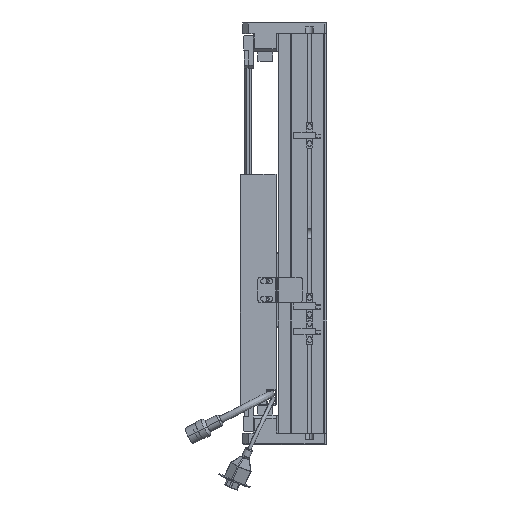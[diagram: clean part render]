
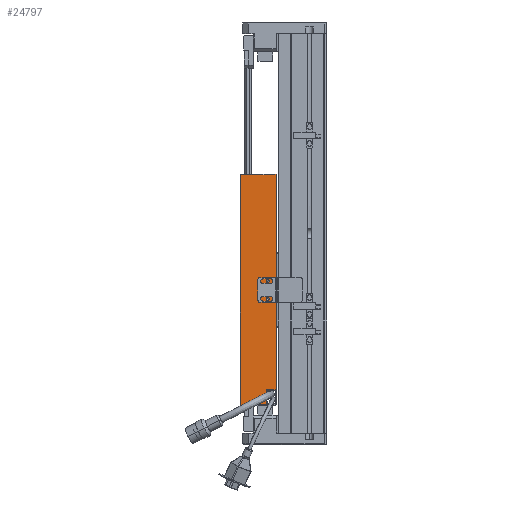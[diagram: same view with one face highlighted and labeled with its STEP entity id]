
A CAD part, left-side view. The second image highlights one B-rep face of the part: STEP entity #24797.
In plain terms, the highlighted planar face has unit normal (-1, 0, 0).
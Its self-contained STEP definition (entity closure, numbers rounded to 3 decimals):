
#4 = ORIENTED_EDGE ( 'NONE', *, *, #46359, .F. ) ;
#665 = DIRECTION ( 'NONE',  ( 0., 0., -1. ) ) ;
#1269 = CARTESIAN_POINT ( 'NONE',  ( -81., -13., 234.5 ) ) ;
#1821 = EDGE_CURVE ( 'NONE', #24424, #48332, #8244, .T. ) ;
#2036 = ORIENTED_EDGE ( 'NONE', *, *, #66134, .T. ) ;
#2097 = DIRECTION ( 'NONE',  ( 0., 0., -1. ) ) ;
#3103 = DIRECTION ( 'NONE',  ( -1., 0., 0. ) ) ;
#4010 = DIRECTION ( 'NONE',  ( 1., 0., 0. ) ) ;
#4570 = DIRECTION ( 'NONE',  ( 0., -1., 0. ) ) ;
#5510 = LINE ( 'NONE', #10534, #46006 ) ;
#6239 = VERTEX_POINT ( 'NONE', #37297 ) ;
#6248 = EDGE_CURVE ( 'NONE', #11185, #24840, #40239, .T. ) ;
#6364 = VERTEX_POINT ( 'NONE', #64661 ) ;
#6387 = EDGE_CURVE ( 'NONE', #13863, #48822, #17941, .T. ) ;
#6666 = CARTESIAN_POINT ( 'NONE',  ( -81., -6.5, 106.85 ) ) ;
#6883 = LINE ( 'NONE', #45633, #33373 ) ;
#7254 = DIRECTION ( 'NONE',  ( 0., 0., 1. ) ) ;
#7513 = FACE_BOUND ( 'NONE', #64216, .T. ) ;
#7769 = DIRECTION ( 'NONE',  ( 0., 0., 1. ) ) ;
#8244 = LINE ( 'NONE', #47803, #15656 ) ;
#8263 = CARTESIAN_POINT ( 'NONE',  ( -81., -15., 235. ) ) ;
#9329 = DIRECTION ( 'NONE',  ( 0., 0., -1. ) ) ;
#9887 = VECTOR ( 'NONE', #14415, 1000. ) ;
#10534 = CARTESIAN_POINT ( 'NONE',  ( -81., -15., 235. ) ) ;
#11185 = VERTEX_POINT ( 'NONE', #53282 ) ;
#11354 = CARTESIAN_POINT ( 'NONE',  ( -81., -6.5, 124.85 ) ) ;
#11596 = DIRECTION ( 'NONE',  ( 0., 0., 1. ) ) ;
#11696 = VECTOR ( 'NONE', #57791, 1000. ) ;
#12388 = AXIS2_PLACEMENT_3D ( 'NONE', #67497, #4010, #9329 ) ;
#13221 = LINE ( 'NONE', #45836, #9887 ) ;
#13728 = CARTESIAN_POINT ( 'NONE',  ( -81., 6.5, 1.5 ) ) ;
#13863 = VERTEX_POINT ( 'NONE', #11354 ) ;
#14060 = ORIENTED_EDGE ( 'NONE', *, *, #52484, .T. ) ;
#14415 = DIRECTION ( 'NONE',  ( 0., 1., 0. ) ) ;
#14940 = DIRECTION ( 'NONE',  ( 0., 1., 0. ) ) ;
#15176 = CARTESIAN_POINT ( 'NONE',  ( -81., -6.5, 126.5 ) ) ;
#15656 = VECTOR ( 'NONE', #665, 1000. ) ;
#15842 = CARTESIAN_POINT ( 'NONE',  ( -81., 21., 234.5 ) ) ;
#15929 = EDGE_CURVE ( 'NONE', #6364, #24840, #13221, .T. ) ;
#16537 = CARTESIAN_POINT ( 'NONE',  ( -81., -5., 16. ) ) ;
#17078 = CARTESIAN_POINT ( 'NONE',  ( -81., -15., 16. ) ) ;
#17119 = CARTESIAN_POINT ( 'NONE',  ( -81., -6.5, 126.5 ) ) ;
#17839 = LINE ( 'NONE', #41334, #21950 ) ;
#17941 = CIRCLE ( 'NONE', #42396, 1.65 ) ;
#19964 = CARTESIAN_POINT ( 'NONE',  ( -81., 21.5, 234.5 ) ) ;
#21566 = FACE_BOUND ( 'NONE', #47025, .T. ) ;
#21950 = VECTOR ( 'NONE', #4570, 1000. ) ;
#22589 = ORIENTED_EDGE ( 'NONE', *, *, #61337, .T. ) ;
#22803 = AXIS2_PLACEMENT_3D ( 'NONE', #39189, #23202, #7254 ) ;
#23202 = DIRECTION ( 'NONE',  ( -1., 0., 0. ) ) ;
#24424 = VERTEX_POINT ( 'NONE', #15842 ) ;
#24797 = ADVANCED_FACE ( 'NONE', ( #21566, #7513, #62027 ), #67281, .F. ) ;
#24840 = VERTEX_POINT ( 'NONE', #13728 ) ;
#26141 = DIRECTION ( 'NONE',  ( 0., 0., 1. ) ) ;
#26461 = CARTESIAN_POINT ( 'NONE',  ( -81., -5., 235. ) ) ;
#26496 = ORIENTED_EDGE ( 'NONE', *, *, #36649, .T. ) ;
#26919 = VERTEX_POINT ( 'NONE', #1269 ) ;
#27617 = ORIENTED_EDGE ( 'NONE', *, *, #15929, .F. ) ;
#30410 = CARTESIAN_POINT ( 'NONE',  ( -81., 21., 0.5 ) ) ;
#30696 = VECTOR ( 'NONE', #2097, 1000. ) ;
#30850 = EDGE_CURVE ( 'NONE', #51674, #62758, #6883, .T. ) ;
#32172 = CARTESIAN_POINT ( 'NONE',  ( -81., 6.5, 235. ) ) ;
#32306 = LINE ( 'NONE', #17078, #36421 ) ;
#32415 = ORIENTED_EDGE ( 'NONE', *, *, #65583, .T. ) ;
#33373 = VECTOR ( 'NONE', #55784, 1000. ) ;
#35814 = DIRECTION ( 'NONE',  ( 0., 0., 1. ) ) ;
#36040 = DIRECTION ( 'NONE',  ( -1., 0., 0. ) ) ;
#36126 = CIRCLE ( 'NONE', #22803, 1.65 ) ;
#36421 = VECTOR ( 'NONE', #64184, 1000. ) ;
#36649 = EDGE_CURVE ( 'NONE', #26919, #24424, #60419, .T. ) ;
#37297 = CARTESIAN_POINT ( 'NONE',  ( -81., -13., 235. ) ) ;
#37993 = DIRECTION ( 'NONE',  ( -1., 0., 0. ) ) ;
#39105 = EDGE_LOOP ( 'NONE', ( #22589, #58760, #27617, #14060, #2036, #62406, #51564, #32415, #26496, #64828 ) ) ;
#39173 = EDGE_CURVE ( 'NONE', #51674, #6239, #5510, .T. ) ;
#39189 = CARTESIAN_POINT ( 'NONE',  ( -81., -6.5, 108.5 ) ) ;
#40239 = LINE ( 'NONE', #32172, #50164 ) ;
#40304 = ORIENTED_EDGE ( 'NONE', *, *, #45908, .F. ) ;
#41334 = CARTESIAN_POINT ( 'NONE',  ( -81., -13., 0.5 ) ) ;
#42396 = AXIS2_PLACEMENT_3D ( 'NONE', #15176, #36040, #35814 ) ;
#43918 = CARTESIAN_POINT ( 'NONE',  ( -81., -15., 16. ) ) ;
#45633 = CARTESIAN_POINT ( 'NONE',  ( -81., -15., 235. ) ) ;
#45836 = CARTESIAN_POINT ( 'NONE',  ( -81., 21.5, 1.5 ) ) ;
#45908 = EDGE_CURVE ( 'NONE', #64451, #53586, #54287, .T. ) ;
#46006 = VECTOR ( 'NONE', #14940, 1000. ) ;
#46359 = EDGE_CURVE ( 'NONE', #53586, #64451, #36126, .T. ) ;
#47025 = EDGE_LOOP ( 'NONE', ( #4, #40304 ) ) ;
#47803 = CARTESIAN_POINT ( 'NONE',  ( -81., 21., 235. ) ) ;
#48332 = VERTEX_POINT ( 'NONE', #30410 ) ;
#48822 = VERTEX_POINT ( 'NONE', #60318 ) ;
#49104 = LINE ( 'NONE', #26461, #67222 ) ;
#49721 = CARTESIAN_POINT ( 'NONE',  ( -81., -13., 235. ) ) ;
#50041 = CARTESIAN_POINT ( 'NONE',  ( -81., -6.5, 108.5 ) ) ;
#50164 = VECTOR ( 'NONE', #26141, 1000. ) ;
#51564 = ORIENTED_EDGE ( 'NONE', *, *, #39173, .T. ) ;
#51674 = VERTEX_POINT ( 'NONE', #8263 ) ;
#52320 = DIRECTION ( 'NONE',  ( 0., 0., 1. ) ) ;
#52484 = EDGE_CURVE ( 'NONE', #6364, #56419, #49104, .T. ) ;
#52754 = EDGE_CURVE ( 'NONE', #48822, #13863, #64723, .T. ) ;
#52832 = ORIENTED_EDGE ( 'NONE', *, *, #52754, .F. ) ;
#53282 = CARTESIAN_POINT ( 'NONE',  ( -81., 6.5, 0.5 ) ) ;
#53586 = VERTEX_POINT ( 'NONE', #67107 ) ;
#54287 = CIRCLE ( 'NONE', #61713, 1.65 ) ;
#54579 = AXIS2_PLACEMENT_3D ( 'NONE', #17119, #37993, #11596 ) ;
#55784 = DIRECTION ( 'NONE',  ( 0., 0., -1. ) ) ;
#56419 = VERTEX_POINT ( 'NONE', #16537 ) ;
#57026 = ORIENTED_EDGE ( 'NONE', *, *, #6387, .F. ) ;
#57791 = DIRECTION ( 'NONE',  ( 0., 1., 0. ) ) ;
#58755 = LINE ( 'NONE', #49721, #30696 ) ;
#58760 = ORIENTED_EDGE ( 'NONE', *, *, #6248, .T. ) ;
#60318 = CARTESIAN_POINT ( 'NONE',  ( -81., -6.5, 128.15 ) ) ;
#60419 = LINE ( 'NONE', #19964, #11696 ) ;
#61337 = EDGE_CURVE ( 'NONE', #48332, #11185, #17839, .T. ) ;
#61713 = AXIS2_PLACEMENT_3D ( 'NONE', #50041, #3103, #7769 ) ;
#62027 = FACE_OUTER_BOUND ( 'NONE', #39105, .T. ) ;
#62406 = ORIENTED_EDGE ( 'NONE', *, *, #30850, .F. ) ;
#62758 = VERTEX_POINT ( 'NONE', #43918 ) ;
#64184 = DIRECTION ( 'NONE',  ( 0., -1., 0. ) ) ;
#64216 = EDGE_LOOP ( 'NONE', ( #52832, #57026 ) ) ;
#64451 = VERTEX_POINT ( 'NONE', #6666 ) ;
#64661 = CARTESIAN_POINT ( 'NONE',  ( -81., -5., 1.5 ) ) ;
#64723 = CIRCLE ( 'NONE', #54579, 1.65 ) ;
#64828 = ORIENTED_EDGE ( 'NONE', *, *, #1821, .T. ) ;
#65583 = EDGE_CURVE ( 'NONE', #6239, #26919, #58755, .T. ) ;
#66134 = EDGE_CURVE ( 'NONE', #56419, #62758, #32306, .T. ) ;
#67107 = CARTESIAN_POINT ( 'NONE',  ( -81., -6.5, 110.15 ) ) ;
#67222 = VECTOR ( 'NONE', #52320, 1000. ) ;
#67281 = PLANE ( 'NONE',  #12388 ) ;
#67497 = CARTESIAN_POINT ( 'NONE',  ( -81., 21.5, 235. ) ) ;
